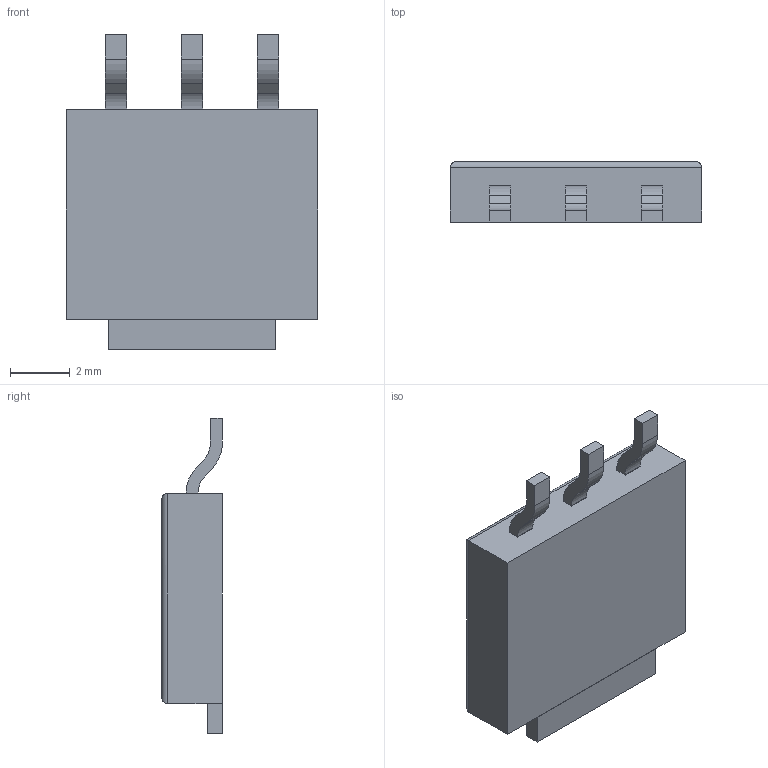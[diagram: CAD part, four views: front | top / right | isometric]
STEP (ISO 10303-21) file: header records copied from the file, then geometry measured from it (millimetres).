
FILE_DESCRIPTION (( 'STEP AP214' ), '1' );
FILE_NAME ( 'TO254P1054X203-4.STEP', '2014-04-11T12:31:22', ( '' ), ( '' ), 'FPX Expert 2013', 'PCB Libraries', '' );
FILE_SCHEMA (( 'AUTOMOTIVE_DESIGN' ));
Length unit declared in the file: millimetre
Products named in the file (1): TO254P1054X203-4
Bounding box: 8.39 x 2.03 x 10.54 mm (x, y, z)
Volume: 124.5 mm3; surface area: 215.8 mm2
Topology: 5 solids, 5 shells, 61 faces, 146 edges, 96 vertices
Faces by surface type: plane 43, cylinder 16, torus 2
Entity records: 2012 total; most frequent: CARTESIAN_POINT 316, DIRECTION 296, ORIENTED_EDGE 292, EDGE_CURVE 146, VECTOR 112, LINE 112, VERTEX_POINT 96, AXIS2_PLACEMENT_3D 92
